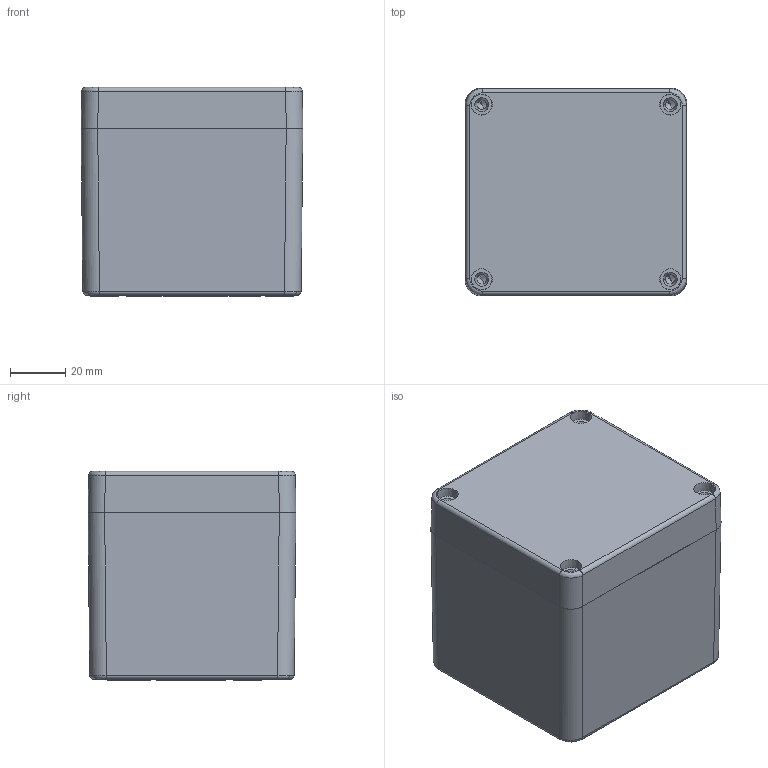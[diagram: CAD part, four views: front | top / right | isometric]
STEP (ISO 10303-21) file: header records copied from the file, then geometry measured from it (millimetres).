
FILE_DESCRIPTION (( 'STEP AP203' ), '1' );
FILE_NAME ('GRP ASSY 807575.STEP', '2024-08-26T09:51:02', ( '' ), ( '' ), 'SwSTEP 2.0', 'SolidWorks 2018', '' );
FILE_SCHEMA (( 'CONFIG_CONTROL_DESIGN' ));
Length unit declared in the file: millimetre
Products named in the file (5): GRP LID 807575; GRP BASE 807575; GRP ASSY 807575; M4 SS TOP INSERT; M4 BOTTOM INSERT
Assembly tree (12 placements, depth 2):
  GRP ASSY 807575
    GRP BASE 807575
    GRP LID 807575
    M4 BOTTOM INSERT  x6
    M4 SS TOP INSERT  x4
Bounding box: 80 x 75 x 75.5 mm (x, y, z)
Volume: 167111.7 mm3; surface area: 75237.4 mm2
Topology: 12 solids, 12 shells, 1503 faces, 3849 edges, 2430 vertices
Faces by surface type: plane 443, cylinder 436, bspline 382, cone 202, torus 40
Entity records: 46092 total; most frequent: CARTESIAN_POINT 23389, ORIENTED_EDGE 5148, DIRECTION 3672, EDGE_CURVE 2574, VERTEX_POINT 1619, AXIS2_PLACEMENT_3D 1255, VECTOR 1162, LINE 1162
